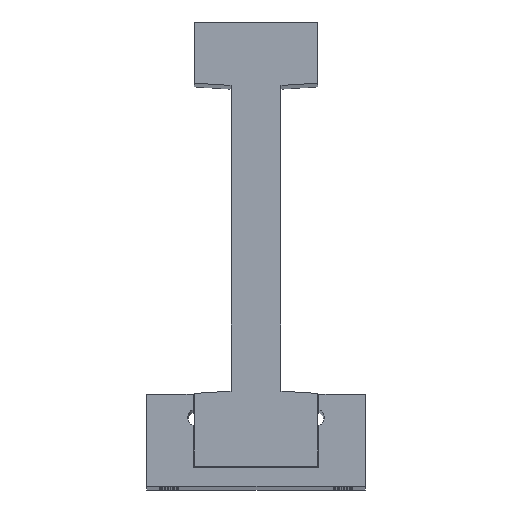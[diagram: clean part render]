
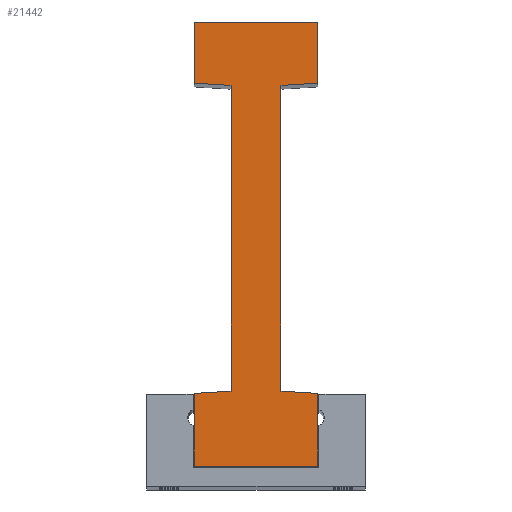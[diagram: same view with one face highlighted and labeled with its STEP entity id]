
A CAD part, top view. The second image highlights one B-rep face of the part: STEP entity #21442.
In plain terms, the highlighted planar face has unit normal (0, 0, 1).
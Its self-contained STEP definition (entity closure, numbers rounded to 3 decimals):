
#689 = EDGE_CURVE ( 'NONE', #20184, #15711, #2152, .T. ) ;
#1070 = ORIENTED_EDGE ( 'NONE', *, *, #10118, .T. ) ;
#1246 = CARTESIAN_POINT ( 'NONE',  ( 13.8, 13.7, 481. ) ) ;
#1663 = VECTOR ( 'NONE', #21013, 1000. ) ;
#2005 = VERTEX_POINT ( 'NONE', #3540 ) ;
#2152 = LINE ( 'NONE', #22839, #1663 ) ;
#2645 = ORIENTED_EDGE ( 'NONE', *, *, #36393, .T. ) ;
#3540 = CARTESIAN_POINT ( 'NONE',  ( -13.8, 0., 481. ) ) ;
#3648 = EDGE_CURVE ( 'NONE', #2005, #26543, #10492, .T. ) ;
#3977 = ORIENTED_EDGE ( 'NONE', *, *, #34522, .T. ) ;
#4052 = CARTESIAN_POINT ( 'NONE',  ( 5.6, 82.7, 481. ) ) ;
#4594 = CARTESIAN_POINT ( 'NONE',  ( -13.8, 99.5, 481. ) ) ;
#4960 = CARTESIAN_POINT ( 'NONE',  ( 13.8, 99.5, 481. ) ) ;
#5310 = VECTOR ( 'NONE', #38280, 1000. ) ;
#5380 = CARTESIAN_POINT ( 'NONE',  ( -5.6, 14.2, 481. ) ) ;
#5739 = LINE ( 'NONE', #19430, #36716 ) ;
#6331 = DIRECTION ( 'NONE',  ( 0., 1., 0. ) ) ;
#6640 = CARTESIAN_POINT ( 'NONE',  ( -13.8, 0., 481. ) ) ;
#6921 = CARTESIAN_POINT ( 'NONE',  ( -5.6, 14.2, 481. ) ) ;
#6976 = ORIENTED_EDGE ( 'NONE', *, *, #37760, .T. ) ;
#7569 = LINE ( 'NONE', #11157, #14691 ) ;
#8092 = PLANE ( 'NONE',  #33490 ) ;
#8200 = ORIENTED_EDGE ( 'NONE', *, *, #3648, .F. ) ;
#8511 = DIRECTION ( 'NONE',  ( 0., 1., 0. ) ) ;
#8589 = LINE ( 'NONE', #29397, #15647 ) ;
#8980 = ORIENTED_EDGE ( 'NONE', *, *, #20697, .F. ) ;
#9041 = VECTOR ( 'NONE', #16049, 1000. ) ;
#9081 = LINE ( 'NONE', #21930, #9041 ) ;
#9177 = FACE_OUTER_BOUND ( 'NONE', #29116, .T. ) ;
#9524 = ORIENTED_EDGE ( 'NONE', *, *, #14737, .F. ) ;
#9771 = VERTEX_POINT ( 'NONE', #14406 ) ;
#10118 = EDGE_CURVE ( 'NONE', #34370, #37742, #9081, .T. ) ;
#10158 = ORIENTED_EDGE ( 'NONE', *, *, #689, .F. ) ;
#10492 = LINE ( 'NONE', #6640, #10949 ) ;
#10834 = ORIENTED_EDGE ( 'NONE', *, *, #28629, .F. ) ;
#10949 = VECTOR ( 'NONE', #6331, 1000. ) ;
#11157 = CARTESIAN_POINT ( 'NONE',  ( 5.6, 82.7, 481. ) ) ;
#11179 = CARTESIAN_POINT ( 'NONE',  ( -13.8, 99.5, 481. ) ) ;
#11376 = ORIENTED_EDGE ( 'NONE', *, *, #38535, .T. ) ;
#11535 = DIRECTION ( 'NONE',  ( 0., 0., -1. ) ) ;
#11714 = LINE ( 'NONE', #11179, #25737 ) ;
#13449 = LINE ( 'NONE', #35352, #5310 ) ;
#13599 = CARTESIAN_POINT ( 'NONE',  ( 0., 99.5, 481. ) ) ;
#14063 = VERTEX_POINT ( 'NONE', #4594 ) ;
#14406 = CARTESIAN_POINT ( 'NONE',  ( 13.8, 83.2, 481. ) ) ;
#14691 = VECTOR ( 'NONE', #29337, 1000. ) ;
#14737 = EDGE_CURVE ( 'NONE', #26802, #20184, #19241, .T. ) ;
#15239 = CARTESIAN_POINT ( 'NONE',  ( -13.8, 83.2, 481. ) ) ;
#15647 = VECTOR ( 'NONE', #29517, 1000. ) ;
#15711 = VERTEX_POINT ( 'NONE', #15239 ) ;
#16049 = DIRECTION ( 'NONE',  ( 0., 1., 0. ) ) ;
#16115 = VECTOR ( 'NONE', #16568, 1000. ) ;
#16445 = VERTEX_POINT ( 'NONE', #20208 ) ;
#16568 = DIRECTION ( 'NONE',  ( -1., 0., 0. ) ) ;
#17000 = CARTESIAN_POINT ( 'NONE',  ( 13.8, 0., 481. ) ) ;
#17136 = LINE ( 'NONE', #29947, #18088 ) ;
#18088 = VECTOR ( 'NONE', #27080, 1000. ) ;
#18250 = VECTOR ( 'NONE', #26094, 1000. ) ;
#19223 = CARTESIAN_POINT ( 'NONE',  ( -13.8, 13.7, 481. ) ) ;
#19241 = LINE ( 'NONE', #5380, #34210 ) ;
#19430 = CARTESIAN_POINT ( 'NONE',  ( 0., 0., 481. ) ) ;
#20184 = VERTEX_POINT ( 'NONE', #21064 ) ;
#20208 = CARTESIAN_POINT ( 'NONE',  ( 13.8, 99.5, 481. ) ) ;
#20697 = EDGE_CURVE ( 'NONE', #26543, #26802, #13449, .T. ) ;
#21013 = DIRECTION ( 'NONE',  ( -0.998, 0.061, 0. ) ) ;
#21064 = CARTESIAN_POINT ( 'NONE',  ( -5.6, 82.7, 481. ) ) ;
#21375 = VERTEX_POINT ( 'NONE', #17000 ) ;
#21442 = ADVANCED_FACE ( 'NONE', ( #9177 ), #8092, .F. ) ;
#21930 = CARTESIAN_POINT ( 'NONE',  ( 5.6, 14.2, 481. ) ) ;
#22455 = DIRECTION ( 'NONE',  ( 1., 0., 0. ) ) ;
#22839 = CARTESIAN_POINT ( 'NONE',  ( -5.6, 82.7, 481. ) ) ;
#25118 = EDGE_CURVE ( 'NONE', #37742, #9771, #7569, .T. ) ;
#25275 = LINE ( 'NONE', #4960, #18250 ) ;
#25737 = VECTOR ( 'NONE', #32064, 1000. ) ;
#26094 = DIRECTION ( 'NONE',  ( 0., 1., 0. ) ) ;
#26123 = ORIENTED_EDGE ( 'NONE', *, *, #25118, .T. ) ;
#26452 = CARTESIAN_POINT ( 'NONE',  ( 0., 99.5, 481. ) ) ;
#26543 = VERTEX_POINT ( 'NONE', #19223 ) ;
#26802 = VERTEX_POINT ( 'NONE', #6921 ) ;
#27080 = DIRECTION ( 'NONE',  ( -0.998, 0.061, 0. ) ) ;
#28119 = EDGE_CURVE ( 'NONE', #9771, #16445, #25275, .T. ) ;
#28486 = CARTESIAN_POINT ( 'NONE',  ( 5.6, 14.2, 481. ) ) ;
#28629 = EDGE_CURVE ( 'NONE', #15711, #14063, #11714, .T. ) ;
#29116 = EDGE_LOOP ( 'NONE', ( #11376, #10834, #10158, #9524, #8980, #8200, #6976, #3977, #2645, #1070, #26123, #34909 ) ) ;
#29337 = DIRECTION ( 'NONE',  ( 0.998, 0.061, 0. ) ) ;
#29397 = CARTESIAN_POINT ( 'NONE',  ( 13.8, 0., 481. ) ) ;
#29517 = DIRECTION ( 'NONE',  ( 0., 1., 0. ) ) ;
#29947 = CARTESIAN_POINT ( 'NONE',  ( 13.8, 13.7, 481. ) ) ;
#31091 = LINE ( 'NONE', #13599, #16115 ) ;
#32064 = DIRECTION ( 'NONE',  ( 0., 1., 0. ) ) ;
#32402 = DIRECTION ( 'NONE',  ( -1., 0., 0. ) ) ;
#32809 = VERTEX_POINT ( 'NONE', #1246 ) ;
#33490 = AXIS2_PLACEMENT_3D ( 'NONE', #26452, #11535, #32402 ) ;
#34210 = VECTOR ( 'NONE', #8511, 1000. ) ;
#34370 = VERTEX_POINT ( 'NONE', #28486 ) ;
#34522 = EDGE_CURVE ( 'NONE', #21375, #32809, #8589, .T. ) ;
#34909 = ORIENTED_EDGE ( 'NONE', *, *, #28119, .T. ) ;
#35352 = CARTESIAN_POINT ( 'NONE',  ( -13.8, 13.7, 481. ) ) ;
#36393 = EDGE_CURVE ( 'NONE', #32809, #34370, #17136, .T. ) ;
#36716 = VECTOR ( 'NONE', #22455, 1000. ) ;
#37742 = VERTEX_POINT ( 'NONE', #4052 ) ;
#37760 = EDGE_CURVE ( 'NONE', #2005, #21375, #5739, .T. ) ;
#38280 = DIRECTION ( 'NONE',  ( 0.998, 0.061, 0. ) ) ;
#38535 = EDGE_CURVE ( 'NONE', #16445, #14063, #31091, .T. ) ;
